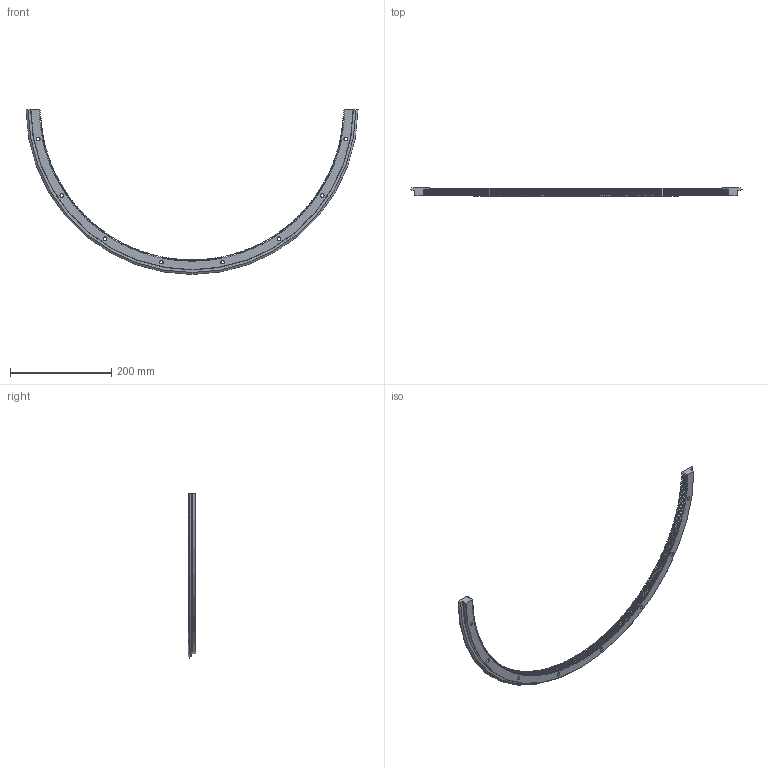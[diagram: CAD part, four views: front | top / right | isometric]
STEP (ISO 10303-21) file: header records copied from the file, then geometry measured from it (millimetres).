
FILE_DESCRIPTION( ( 'STEP AP203' ), '1' );
FILE_NAME( 'p:/temp/worker_45/temp/exporttempdir_3164_144_bDKrY/format_0/REM 655 R180 Q.stp', '2021-08-30T05:10:53', ( 'License CC BY-ND 4.0' ), ( 'CADENAS' ), ' ', 'PARTsolutions', ' ' );
FILE_SCHEMA( ( 'CONFIG_CONTROL_DESIGN' ) );
Length unit declared in the file: millimetre
Products named in the file (1): _REM 655 R180 Q
Bounding box: 655.48 x 15.5 x 325.75 mm (x, y, z)
Volume: 317637.1 mm3; surface area: 98057.5 mm2
Topology: 1 solids, 1 shells, 1240 faces, 3682 edges, 2452 vertices
Faces by surface type: cylinder 497, plane 492, cone 250, torus 1
Full cylindrical faces by diameter (mm): 6.8 x8, 11 x8
Entity records: 42326 total; most frequent: CARTESIAN_POINT 8822, ORIENTED_EDGE 7316, DIRECTION 6900, EDGE_CURVE 3658, AXIS2_PLACEMENT_3D 2487, VERTEX_POINT 2453, LINE 1926, VECTOR 1926
